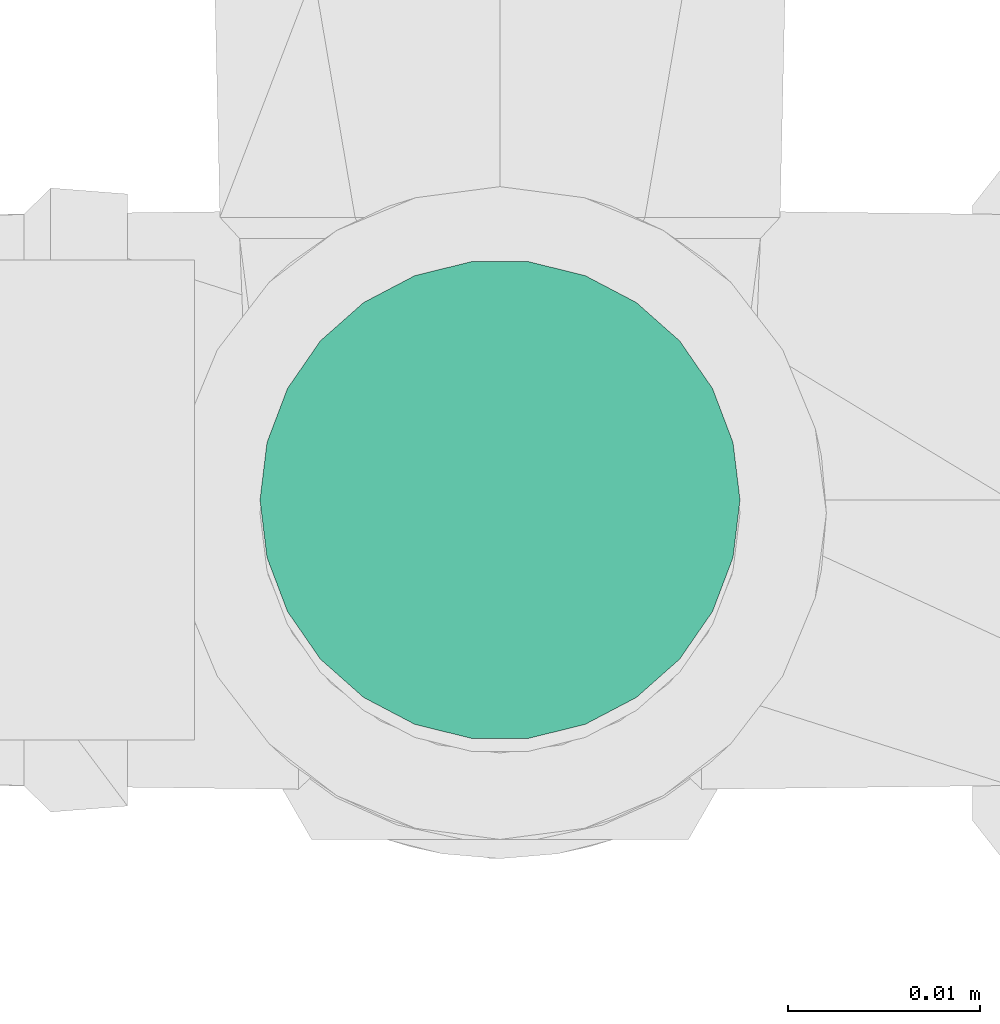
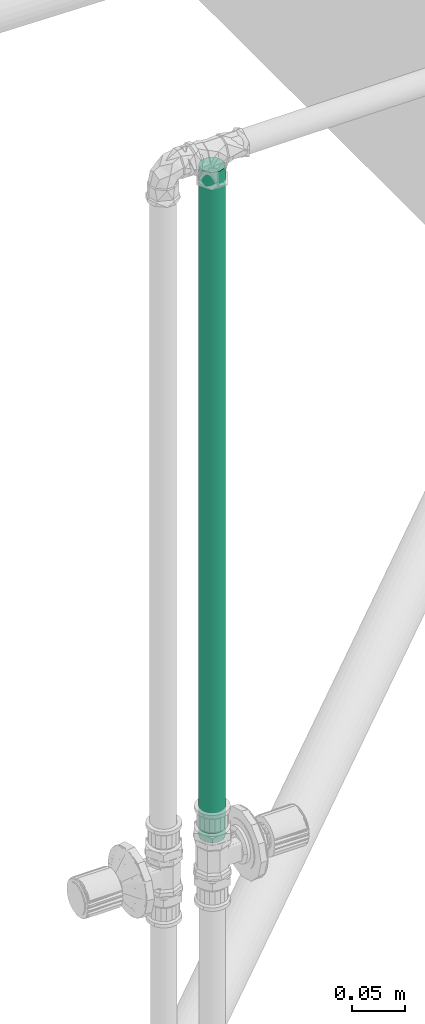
# One storey, part 191 of 589: 1 flow segment.
"""IFC2X3 building model written with IfcOpenShell, lengths in millimetres."""

from ifc_helpers import new_model, entity, si_unit, converted_unit, derived_unit, direction, frame, origin, origin_2d_with_axis, place, context, subcontext, project, spatial, circle, extrude, type_object, element, save


model = new_model("IFC2X3")

# Units and contexts
model_context = context("Model", 3, precision=0.01, world=origin(), true_north=direction((6.123031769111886e-17, 1.0)))
body_context = subcontext(model_context, "Body", "Model", "MODEL_VIEW")
ifc_project = project(units=[si_unit("LENGTHUNIT", "METRE", prefix="MILLI"), si_unit("AREAUNIT", "SQUARE_METRE"), si_unit("VOLUMEUNIT", "CUBIC_METRE"), converted_unit("PLANEANGLEUNIT", "DEGREE", entity("IfcRatioMeasure", 0.017453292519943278), si_unit("PLANEANGLEUNIT", "RADIAN"), dimensions=[0, 0, 0, 0, 0, 0, 0]), si_unit("MASSUNIT", "GRAM", prefix="KILO"), derived_unit("MASSDENSITYUNIT", [(si_unit("MASSUNIT", "GRAM", prefix="KILO"), 1), (si_unit("LENGTHUNIT", "METRE"), -3)]), derived_unit("IONCONCENTRATIONUNIT", [(si_unit("MASSUNIT", "GRAM", prefix="KILO"), 1), (si_unit("LENGTHUNIT", "METRE"), -3)]), derived_unit("MOMENTOFINERTIAUNIT", [(si_unit("LENGTHUNIT", "METRE"), 4)]), si_unit("TIMEUNIT", "SECOND"), si_unit("FREQUENCYUNIT", "HERTZ"), si_unit("THERMODYNAMICTEMPERATUREUNIT", "DEGREE_CELSIUS"), derived_unit("THERMALTRANSMITTANCEUNIT", [(si_unit("MASSUNIT", "GRAM", prefix="KILO"), 1), (si_unit("THERMODYNAMICTEMPERATUREUNIT", "KELVIN"), -1), (si_unit("TIMEUNIT", "SECOND"), -3)]), derived_unit("THERMALCONDUCTANCEUNIT", [(si_unit("MASSUNIT", "GRAM", prefix="KILO"), 1), (si_unit("THERMODYNAMICTEMPERATUREUNIT", "KELVIN"), -1), (si_unit("TIMEUNIT", "SECOND"), -3), (si_unit("LENGTHUNIT", "METRE"), 1)]), derived_unit("VOLUMETRICFLOWRATEUNIT", [(si_unit("LENGTHUNIT", "METRE"), 3), (si_unit("TIMEUNIT", "SECOND"), -1)]), derived_unit("MASSFLOWRATEUNIT", [(si_unit("MASSUNIT", "GRAM", prefix="KILO"), 1), (si_unit("TIMEUNIT", "SECOND"), -1)]), derived_unit("ROTATIONALFREQUENCYUNIT", [(si_unit("TIMEUNIT", "SECOND"), -1)]), si_unit("ELECTRICCURRENTUNIT", "AMPERE"), si_unit("ELECTRICVOLTAGEUNIT", "VOLT"), si_unit("POWERUNIT", "WATT"), si_unit("FORCEUNIT", "NEWTON", prefix="KILO"), si_unit("ILLUMINANCEUNIT", "LUX"), si_unit("LUMINOUSFLUXUNIT", "LUMEN"), si_unit("LUMINOUSINTENSITYUNIT", "CANDELA"), derived_unit("USERDEFINED", [(si_unit("MASSUNIT", "GRAM", prefix="KILO"), -1), (si_unit("LENGTHUNIT", "METRE"), -2), (si_unit("TIMEUNIT", "SECOND"), 3), (si_unit("LUMINOUSFLUXUNIT", "LUMEN"), 1)]), derived_unit("USERDEFINED", [(si_unit("MASSUNIT", "GRAM", prefix="KILO"), 1), (si_unit("TIMEUNIT", "SECOND"), -3), (si_unit("LENGTHUNIT", "METRE"), 3), (si_unit("ELECTRICCURRENTUNIT", "AMPERE"), -2)]), derived_unit("SOUNDPOWERUNIT", [(si_unit("MASSUNIT", "GRAM", prefix="KILO"), 1), (si_unit("TIMEUNIT", "SECOND"), -3), (si_unit("LENGTHUNIT", "METRE"), 2)]), derived_unit("SOUNDPRESSUREUNIT", [(si_unit("MASSUNIT", "GRAM", prefix="KILO"), 1), (si_unit("LENGTHUNIT", "METRE"), -1), (si_unit("TIMEUNIT", "SECOND"), -2)]), derived_unit("LINEARVELOCITYUNIT", [(si_unit("LENGTHUNIT", "METRE"), 1), (si_unit("TIMEUNIT", "SECOND"), -1)]), si_unit("PRESSUREUNIT", "PASCAL"), derived_unit("USERDEFINED", [(si_unit("MASSUNIT", "GRAM", prefix="KILO"), 1), (si_unit("LENGTHUNIT", "METRE"), -2), (si_unit("TIMEUNIT", "SECOND"), -2)]), derived_unit("LINEARFORCEUNIT", [(si_unit("MASSUNIT", "GRAM", prefix="KILO"), 1), (si_unit("TIMEUNIT", "SECOND"), -2)]), derived_unit("PLANARFORCEUNIT", [(si_unit("MASSUNIT", "GRAM", prefix="KILO"), 1), (si_unit("LENGTHUNIT", "METRE"), -1), (si_unit("TIMEUNIT", "SECOND"), -2)]), derived_unit("SPECIFICHEATCAPACITYUNIT", [(si_unit("THERMODYNAMICTEMPERATUREUNIT", "KELVIN"), -1), (si_unit("LENGTHUNIT", "METRE"), 2), (si_unit("TIMEUNIT", "SECOND"), -2)]), derived_unit("HEATINGVALUEUNIT", [(si_unit("LENGTHUNIT", "METRE"), 2), (si_unit("TIMEUNIT", "SECOND"), -2)]), derived_unit("VAPORPERMEABILITYUNIT", [(si_unit("LENGTHUNIT", "METRE"), -1), (si_unit("TIMEUNIT", "SECOND"), 1)]), derived_unit("DYNAMICVISCOSITYUNIT", [(si_unit("MASSUNIT", "GRAM", prefix="KILO"), 1), (si_unit("TIMEUNIT", "SECOND"), -1), (si_unit("LENGTHUNIT", "METRE"), -1)]), derived_unit("THERMALEXPANSIONCOEFFICIENTUNIT", [(si_unit("THERMODYNAMICTEMPERATUREUNIT", "KELVIN"), -1)]), derived_unit("MODULUSOFELASTICITYUNIT", [(si_unit("MASSUNIT", "GRAM", prefix="KILO"), 1), (si_unit("LENGTHUNIT", "METRE"), -1), (si_unit("TIMEUNIT", "SECOND"), -2)]), derived_unit("ISOTHERMALMOISTURECAPACITYUNIT", [(si_unit("LENGTHUNIT", "METRE"), 3), (si_unit("MASSUNIT", "GRAM", prefix="KILO"), -1)]), derived_unit("MOISTUREDIFFUSIVITYUNIT", [(si_unit("TIMEUNIT", "SECOND"), -1), (si_unit("LENGTHUNIT", "METRE"), 2)])], contexts=[model_context])

# Site, building, storey
site_placement = place(None, origin())
site = spatial("IfcSite", under=ifc_project, at=site_placement, Name="Default", CompositionType="ELEMENT")
building_placement = place(site_placement, origin())
building = spatial("IfcBuilding", under=site, at=building_placement, CompositionType="ELEMENT")
storey_placement = place(building_placement, frame((0.0, 0.0, 100.0)))
storey = spatial("IfcBuildingStorey", under=building, at=storey_placement, Name="TÉRREO", CompositionType="ELEMENT", Elevation=100.0)

# Flow segment
pipe_segment_type = type_object("IfcPipeSegmentType", Name="Tipos de tubos:PVC Marrom Soldável", PredefinedType="NOTDEFINED")
flow_segment_placement = place(storey_placement, origin())
element("IfcFlowSegment", 1, at=flow_segment_placement, inside=storey, type_object=pipe_segment_type, Name="Tipos de tubos:PVC Marrom Soldável", ObjectType="Tipos de tubos:PVC Marrom Soldável", context=body_context, shape_type="SweptSolid", body=[
    extrude(circle(Radius=12.5, at=origin_2d_with_axis()), frame((7354.069381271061, -1891.7407768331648, 2220.0), z_axis=(0.0, 0.0, 1.0), x_axis=(-1.0, 0.0, 0.0)), (0.0, 0.0, 1.0), 765.5000000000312),
])

save(model, "model.ifc")
